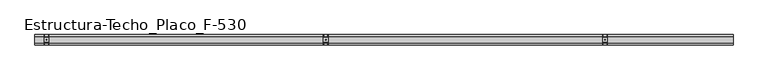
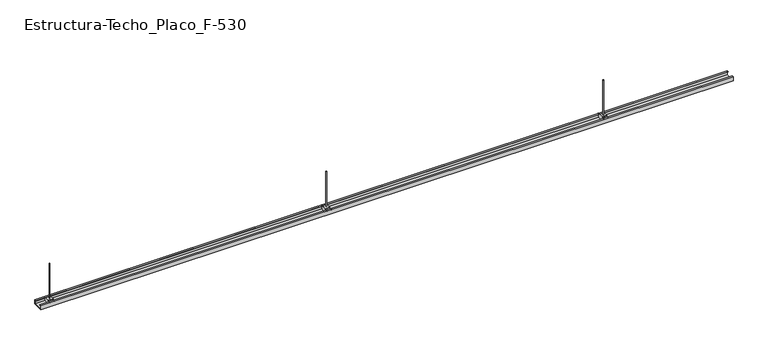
"""IFC4 building model written with IfcOpenShell, lengths in millimetres: proxy geometry, Estructura-Techo_Placo_F-530 : Perfil Primario."""

import ifcopenshell
import ifcopenshell.guid

model = None  # the IFC model being written
_history = None  # IfcOwnerHistory: only IFC2X3 demands one
_inside = {}  # id of a spatial element -> (the spatial element, [elements in it])
_under = {}  # id of a project, library or spatial element -> (it, [spatial elements below it])
_declared = {}  # id of a project -> (the project, [libraries it declares])
_typed = {}  # id of a type object -> (the type object, [elements of that type])
_made_of = {}  # id of a material, layer set ... -> (it, [elements and type objects made of it])


def new_model(schema):
    """Start an empty IFC model of exactly this schema.

    Asked for "IFC4X3", IfcOpenShell would pick the latest addendum, in which some entities
    have other attributes; the version numbers below select the first issue.
    IFC2X3 requires an IfcOwnerHistory on every rooted entity: one is made here for all.
    """
    global model, _history
    if schema == "IFC4X3":
        model = ifcopenshell.file(schema_version=(4, 3, 0, 0))
    else:
        model = ifcopenshell.file(schema=schema)
    _inside.clear()
    _under.clear()
    _declared.clear()
    _typed.clear()
    _made_of.clear()
    _history = None
    if model.schema == "IFC2X3":
        org = make("IfcOrganization", Name="unknown")
        user = make(
            "IfcPersonAndOrganization",
            ThePerson=make("IfcPerson", FamilyName="unknown"),
            TheOrganization=org,
        )
        app = make(
            "IfcApplication",
            ApplicationDeveloper=org,
            Version="unknown",
            ApplicationFullName="unknown",
            ApplicationIdentifier="unknown",
        )
        _history = make(
            "IfcOwnerHistory",
            OwningUser=user,
            OwningApplication=app,
            ChangeAction="ADDED",
            CreationDate=0,
        )
    return model


def make(cls, **values):
    """One entity of the class cls with the attributes given. An attribute that is None is left unset."""
    return model.create_entity(
        cls, **{name: value for name, value in values.items() if value is not None}
    )


def rooted(cls, **values):
    """An entity with a GlobalId (a new one), such as an element, a storey or a relation."""
    return make(cls, GlobalId=ifcopenshell.guid.new(), OwnerHistory=_history, **values)


def si_unit(unit_type, name, prefix=None):
    """IfcSIUnit, for example si_unit("LENGTHUNIT", "METRE", prefix="MILLI")."""
    return make("IfcSIUnit", UnitType=unit_type, Prefix=prefix, Name=name)


def assignment(units):
    """IfcUnitAssignment: the units of a project."""
    return None if units is None else make("IfcUnitAssignment", Units=units)


def point(xyz):
    """IfcCartesianPoint."""
    return None if xyz is None else make("IfcCartesianPoint", Coordinates=xyz)


def direction(xyz):
    """IfcDirection."""
    return None if xyz is None else make("IfcDirection", DirectionRatios=xyz)


def frame(location, z_axis=None, x_axis=None):
    """IfcAxis2Placement3D, a coordinate frame: its origin and axes. An axis left out is left unset."""
    return make(
        "IfcAxis2Placement3D",
        Location=point(location),
        Axis=direction(z_axis),
        RefDirection=direction(x_axis),
    )


def frame_2d(location, x_axis=None):
    """IfcAxis2Placement2D, a coordinate frame in the plane: its origin and x axis."""
    return make(
        "IfcAxis2Placement2D", Location=point(location), RefDirection=direction(x_axis)
    )


def origin():
    """The frame at (0, 0, 0) with its axes left unset."""
    return frame((0.0, 0.0, 0.0))


def place(relative_to, where):
    """IfcLocalPlacement: puts the frame where relative to a parent placement (None: the world)."""
    return make(
        "IfcLocalPlacement", PlacementRelTo=relative_to, RelativePlacement=where
    )


def context(
    kind, dimensions, precision=None, world=None, true_north=None, identifier=None
):
    """IfcGeometricRepresentationContext, for example the 3D "Model" context."""
    return make(
        "IfcGeometricRepresentationContext",
        ContextIdentifier=identifier,
        ContextType=kind,
        CoordinateSpaceDimension=dimensions,
        Precision=precision,
        WorldCoordinateSystem=world,
        TrueNorth=true_north,
    )


def project(units=None, contexts=None):
    """IfcProject with its units and contexts."""
    return rooted(
        "IfcProject",
        Name="project",
        RepresentationContexts=contexts,
        UnitsInContext=assignment(units),
    )


def spatial(cls, under=None, at=None, **own):
    """A site, building, storey or space (cls), placed at a placement, below another one or the project."""
    s = rooted(cls, ObjectPlacement=at, **own)
    if under is not None:
        _under.setdefault(under.id(), (under, []))[1].append(s)
    return s


def polyline(points):
    """IfcPolyline through the points."""
    return make("IfcPolyline", Points=[point(p) for p in points])


def circle_curve(where, radius):
    """IfcCircle in the frame where."""
    return make("IfcCircle", Position=where, Radius=radius)


def trimmed(basis, trim1, trim2, sense, master):
    """IfcTrimmedCurve: the piece of a basis curve between two trims."""
    return make(
        "IfcTrimmedCurve",
        BasisCurve=basis,
        Trim1=trim1,
        Trim2=trim2,
        SenseAgreement=sense,
        MasterRepresentation=master,
    )


def segment(curve, same_sense, transition):
    """IfcCompositeCurveSegment."""
    return make(
        "IfcCompositeCurveSegment",
        Transition=transition,
        SameSense=same_sense,
        ParentCurve=curve,
    )


def composite_curve(segments, self_intersect=None):
    """IfcCompositeCurve: segments joined end to end."""
    return make("IfcCompositeCurve", Segments=segments, SelfIntersect=self_intersect)


def outline(outer, holes=None, kind="AREA"):
    """IfcArbitraryClosedProfileDef: a profile drawn as a closed curve; with holes, ...WithVoids."""
    if holes is None:
        return make("IfcArbitraryClosedProfileDef", ProfileType=kind, OuterCurve=outer)
    return make(
        "IfcArbitraryProfileDefWithVoids",
        ProfileType=kind,
        OuterCurve=outer,
        InnerCurves=holes,
    )


def extrude(swept, where, along, depth):
    """IfcExtrudedAreaSolid: the profile swept, set in the frame where, extruded along a direction by depth."""
    return make(
        "IfcExtrudedAreaSolid",
        SweptArea=swept,
        Position=where,
        ExtrudedDirection=direction(along),
        Depth=depth,
    )


def faces_of(points, faces, orient=None, outer=None):
    """IfcFace entities. A face is a list of loops; a loop is a list of indices into points, from 0.

    orient and outer hold one flag for each loop. By default every Orientation is true, the
    first loop of a face is its IfcFaceOuterBound and the others are IfcFaceBound.
    """
    made = []
    for i, loops in enumerate(faces):
        bounds = []
        for j, loop in enumerate(loops):
            is_outer = j == 0 if outer is None else outer[i][j]
            bounds.append(
                make(
                    "IfcFaceOuterBound" if is_outer else "IfcFaceBound",
                    Bound=make("IfcPolyLoop", Polygon=[points[k] for k in loop]),
                    Orientation=True if orient is None else orient[i][j],
                )
            )
        made.append(make("IfcFace", Bounds=bounds))
    return made


def faceted_brep(points, faces, orient=None, outer=None, voids=None):
    """IfcFacetedBrep: a solid bounded by flat faces; with voids (closed shells), ...WithVoids."""
    shared = [point(p) for p in points]
    hull = make("IfcClosedShell", CfsFaces=faces_of(shared, faces, orient, outer))
    if voids is None:
        return make("IfcFacetedBrep", Outer=hull)
    return make(
        "IfcFacetedBrepWithVoids",
        Outer=hull,
        Voids=[
            make(cls, CfsFaces=faces_of(shared, fs, o, b)) for cls, fs, o, b in voids
        ],
    )


def shape(context_of_items, identifier, shape_type, items):
    """IfcShapeRepresentation: the items that make up one representation, for example the "Body"."""
    return make(
        "IfcShapeRepresentation",
        ContextOfItems=context_of_items,
        RepresentationIdentifier=identifier,
        RepresentationType=shape_type,
        Items=items,
    )


def source(mapping_origin, context_of_items, identifier, shape_type, items):
    """IfcRepresentationMap: a shape defined once, which mapped items show again and again."""
    return make(
        "IfcRepresentationMap",
        MappingOrigin=mapping_origin,
        MappedRepresentation=shape(context_of_items, identifier, shape_type, items),
    )


def transform(
    local_origin,
    x_axis=None,
    y_axis=None,
    z_axis=None,
    scale=None,
    scale2=None,
    scale3=None,
    uniform=True,
):
    """IfcCartesianTransformationOperator3D, or its non-uniform kind. x_axis, y_axis, z_axis: its Axis1, 2, 3."""
    if uniform:
        return make(
            "IfcCartesianTransformationOperator3D",
            Axis1=direction(x_axis),
            Axis2=direction(y_axis),
            LocalOrigin=point(local_origin),
            Scale=scale,
            Axis3=direction(z_axis),
        )
    return make(
        "IfcCartesianTransformationOperator3DnonUniform",
        Axis1=direction(x_axis),
        Axis2=direction(y_axis),
        LocalOrigin=point(local_origin),
        Scale=scale,
        Axis3=direction(z_axis),
        Scale2=scale2,
        Scale3=scale3,
    )


def mapped(mapping_source, mapping_target):
    """IfcMappedItem: shows the shape of a source again, moved by a transform."""
    return make(
        "IfcMappedItem", MappingSource=mapping_source, MappingTarget=mapping_target
    )


def made_of(thing, what):
    """Note that an element or type object is made of a material, layer set ...; save() writes the relation."""
    if what is not None:
        _made_of.setdefault(what.id(), (what, []))[1].append(thing)
    return thing


def element(
    cls,
    number,
    at=None,
    inside=None,
    cuts=None,
    type_object=None,
    material=None,
    context=None,
    identifier="Body",
    shape_type=None,
    held_by="IfcProductDefinitionShape",
    body=None,
    shapes=None,
    **own,
):
    """One element of the class cls, such as IfcWall. Its Tag is "e" and its number.

    at: its placement. inside: the storey or other place that contains it. cuts: it is an
    opening in that element (IfcRelVoidsElement). A single representation is given by context,
    identifier, shape_type and body (its items); several are given by shapes. held_by: the class
    of the entity that holds the representations. save() writes the other relations.
    """
    e = rooted(cls, Tag="e%d" % number, ObjectPlacement=at, **own)
    if body is not None:
        shapes = [shape(context, identifier, shape_type, body)]
    if shapes is not None:
        e.Representation = make(held_by, Representations=shapes)
    if inside is not None:
        _inside.setdefault(inside.id(), (inside, []))[1].append(e)
    if cuts is not None:
        rooted(
            "IfcRelVoidsElement", RelatingBuildingElement=cuts, RelatedOpeningElement=e
        )
    if type_object is not None:
        _typed.setdefault(type_object.id(), (type_object, []))[1].append(e)
    return made_of(e, material)


def aggregate(whole, parts):
    """IfcRelAggregates: a whole, such as a stair, and the parts it consists of."""
    return rooted("IfcRelAggregates", RelatingObject=whole, RelatedObjects=parts)


def save(model, path):
    """Write the relations noted so far, then the file.

    IfcRelAggregates (storeys below a building ...), IfcRelContainedInSpatialStructure (elements
    in a storey), IfcRelDefinesByType, IfcRelAssociatesMaterial and IfcRelDeclares: one each for
    every whole, place, type object, material and project.
    """
    for whole, parts in _under.values():
        aggregate(whole, parts)
    for where, things in _inside.values():
        rooted(
            "IfcRelContainedInSpatialStructure",
            RelatedElements=things,
            RelatingStructure=where,
        )
    for kind, things in _typed.values():
        rooted("IfcRelDefinesByType", RelatedObjects=things, RelatingType=kind)
    for what, things in _made_of.values():
        rooted("IfcRelAssociatesMaterial", RelatedObjects=things, RelatingMaterial=what)
    for by, libraries in _declared.values():
        rooted("IfcRelDeclares", RelatingContext=by, RelatedDefinitions=libraries)
    model.write(path)


def estructura_techo_placo_f_530_020da930(model_context):
    return source(origin(), model_context, "Body", "SolidModel", [
        extrude(outline(composite_curve([segment(trimmed(circle_curve(frame_2d((2450.0, 0.0)), 1.5), [point((2448.5, 0.0))], [point((2451.5, 0.0))], False, "CARTESIAN"), True, "CONTINUOUS"), segment(trimmed(circle_curve(frame_2d((2450.0, 0.0)), 1.5), [point((2451.5, 0.0))], [point((2448.5, 0.0))], False, "CARTESIAN"), True, "CONTINUOUS")], self_intersect=False)), frame((0.0, 0.0, 40.0), z_axis=(0.0, 0.0, 1.0), x_axis=(1.0, 0.0, 0.0)), (0.0, 0.0, 1.0), 160.0),
        faceted_brep([(2460.0, 10.0, 37.0), (2460.0, 10.0, 40.0), (2460.0, -10.0, 40.0), (2460.0, -10.0, 37.0), (2460.0, -22.5, 37.0), (2460.0, -22.5, 36.0), (2460.0, -14.9944465, 23.0), (2460.0, 14.9944465, 23.0), (2460.0, 22.5, 36.0), (2460.0, 22.5, 37.0), (2440.0, 10.0, 37.0), (2440.0, 22.5, 37.0), (2440.0, 22.5, 36.0), (2440.0, 14.9944465, 23.0), (2440.0, -14.9944465, 23.0), (2440.0, -22.5, 36.0), (2440.0, -22.5, 37.0), (2440.0, -10.0, 37.0), (2440.0, -10.0, 40.0), (2440.0, 10.0, 40.0), (2459.0, 10.0, 37.0), (2459.0, 10.0, 39.0), (2441.0, 10.0, 39.0), (2441.0, 10.0, 37.0), (2441.0, -10.0, 37.0), (2441.0, -10.0, 39.0), (2459.0, -10.0, 39.0), (2459.0, -10.0, 37.0), (2459.0, -22.5, 37.0), (2441.0, -22.5, 37.0), (2459.0, -22.5, 36.0), (2441.0, -22.5, 36.0), (2459.0, -14.9944465, 23.0), (2441.0, -14.9944465, 23.0), (2459.0, 14.9944465, 23.0), (2441.0, 14.9944465, 23.0), (2459.0, 22.5, 36.0), (2441.0, 22.5, 36.0), (2459.0, 22.5, 37.0), (2441.0, 22.5, 37.0)], [[[0, 1, 2, 3, 4, 5, 6, 7, 8, 9]], [[10, 11, 12, 13, 14, 15, 16, 17, 18, 19]], [[1, 0, 20, 21, 22, 23, 10, 19]], [[2, 1, 19, 18]], [[3, 2, 18, 17, 24, 25, 26, 27]], [[4, 3, 27, 28]], [[17, 16, 29, 24]], [[5, 4, 28, 30]], [[16, 15, 31, 29]], [[6, 5, 30, 32]], [[15, 14, 33, 31]], [[7, 6, 32, 34]], [[14, 13, 35, 33]], [[8, 7, 34, 36]], [[13, 12, 37, 35]], [[9, 8, 36, 38]], [[12, 11, 39, 37]], [[0, 9, 38, 20]], [[11, 10, 23, 39]], [[21, 26, 25, 22]], [[22, 25, 24, 29, 31, 33, 35, 37, 39, 23]], [[26, 21, 20, 38, 36, 34, 32, 30, 28, 27]]]),
        extrude(outline(composite_curve([segment(trimmed(circle_curve(frame_2d((1250.0, 0.0)), 1.5), [point((1248.5, 0.0))], [point((1251.5, 0.0))], False, "CARTESIAN"), True, "CONTINUOUS"), segment(trimmed(circle_curve(frame_2d((1250.0, 0.0)), 1.5), [point((1251.5, 0.0))], [point((1248.5, 0.0))], False, "CARTESIAN"), True, "CONTINUOUS")], self_intersect=False)), frame((0.0, 0.0, 40.0), z_axis=(0.0, 0.0, 1.0), x_axis=(1.0, 0.0, 0.0)), (0.0, 0.0, 1.0), 160.0),
        faceted_brep([(1260.0, 10.0, 37.0), (1260.0, 10.0, 40.0), (1260.0, -10.0, 40.0), (1260.0, -10.0, 37.0), (1260.0, -22.5, 37.0), (1260.0, -22.5, 36.0), (1260.0, -14.9944465, 23.0), (1260.0, 14.9944465, 23.0), (1260.0, 22.5, 36.0), (1260.0, 22.5, 37.0), (1240.0, 10.0, 37.0), (1240.0, 22.5, 37.0), (1240.0, 22.5, 36.0), (1240.0, 14.9944465, 23.0), (1240.0, -14.9944465, 23.0), (1240.0, -22.5, 36.0), (1240.0, -22.5, 37.0), (1240.0, -10.0, 37.0), (1240.0, -10.0, 40.0), (1240.0, 10.0, 40.0), (1259.0, 10.0, 37.0), (1259.0, 10.0, 39.0), (1241.0, 10.0, 39.0), (1241.0, 10.0, 37.0), (1241.0, -10.0, 37.0), (1241.0, -10.0, 39.0), (1259.0, -10.0, 39.0), (1259.0, -10.0, 37.0), (1259.0, -22.5, 37.0), (1241.0, -22.5, 37.0), (1259.0, -22.5, 36.0), (1241.0, -22.5, 36.0), (1259.0, -14.9944465, 23.0), (1241.0, -14.9944465, 23.0), (1259.0, 14.9944465, 23.0), (1241.0, 14.9944465, 23.0), (1259.0, 22.5, 36.0), (1241.0, 22.5, 36.0), (1259.0, 22.5, 37.0), (1241.0, 22.5, 37.0)], [[[0, 1, 2, 3, 4, 5, 6, 7, 8, 9]], [[10, 11, 12, 13, 14, 15, 16, 17, 18, 19]], [[1, 0, 20, 21, 22, 23, 10, 19]], [[2, 1, 19, 18]], [[3, 2, 18, 17, 24, 25, 26, 27]], [[4, 3, 27, 28]], [[17, 16, 29, 24]], [[5, 4, 28, 30]], [[16, 15, 31, 29]], [[6, 5, 30, 32]], [[15, 14, 33, 31]], [[7, 6, 32, 34]], [[14, 13, 35, 33]], [[8, 7, 34, 36]], [[13, 12, 37, 35]], [[9, 8, 36, 38]], [[12, 11, 39, 37]], [[0, 9, 38, 20]], [[11, 10, 23, 39]], [[21, 26, 25, 22]], [[22, 25, 24, 29, 31, 33, 35, 37, 39, 23]], [[26, 21, 20, 38, 36, 34, 32, 30, 28, 27]]]),
        extrude(outline(composite_curve([segment(trimmed(circle_curve(frame_2d((50.0, 0.0)), 1.5), [point((48.5, 0.0))], [point((51.5, 0.0))], False, "CARTESIAN"), True, "CONTINUOUS"), segment(trimmed(circle_curve(frame_2d((50.0, 0.0)), 1.5), [point((51.5, 0.0))], [point((48.5, 0.0))], False, "CARTESIAN"), True, "CONTINUOUS")], self_intersect=False)), frame((0.0, 0.0, 40.0), z_axis=(0.0, 0.0, 1.0), x_axis=(1.0, 0.0, 0.0)), (0.0, 0.0, 1.0), 160.0),
        faceted_brep([(60.0, 10.0, 37.0), (60.0, 10.0, 40.0), (60.0, -10.0, 40.0), (60.0, -10.0, 37.0), (60.0, -22.5, 37.0), (60.0, -22.5, 36.0), (60.0, -14.9944465, 23.0), (60.0, 14.9944465, 23.0), (60.0, 22.5, 36.0), (60.0, 22.5, 37.0), (40.0, 10.0, 37.0), (40.0, 22.5, 37.0), (40.0, 22.5, 36.0), (40.0, 14.9944465, 23.0), (40.0, -14.9944465, 23.0), (40.0, -22.5, 36.0), (40.0, -22.5, 37.0), (40.0, -10.0, 37.0), (40.0, -10.0, 40.0), (40.0, 10.0, 40.0), (59.0, 10.0, 37.0), (59.0, 10.0, 39.0), (41.0, 10.0, 39.0), (41.0, 10.0, 37.0), (41.0, -10.0, 37.0), (41.0, -10.0, 39.0), (59.0, -10.0, 39.0), (59.0, -10.0, 37.0), (59.0, -22.5, 37.0), (41.0, -22.5, 37.0), (59.0, -22.5, 36.0), (41.0, -22.5, 36.0), (59.0, -14.9944465, 23.0), (41.0, -14.9944465, 23.0), (59.0, 14.9944465, 23.0), (41.0, 14.9944465, 23.0), (59.0, 22.5, 36.0), (41.0, 22.5, 36.0), (59.0, 22.5, 37.0), (41.0, 22.5, 37.0)], [[[0, 1, 2, 3, 4, 5, 6, 7, 8, 9]], [[10, 11, 12, 13, 14, 15, 16, 17, 18, 19]], [[1, 0, 20, 21, 22, 23, 10, 19]], [[2, 1, 19, 18]], [[3, 2, 18, 17, 24, 25, 26, 27]], [[4, 3, 27, 28]], [[17, 16, 29, 24]], [[5, 4, 28, 30]], [[16, 15, 31, 29]], [[6, 5, 30, 32]], [[15, 14, 33, 31]], [[7, 6, 32, 34]], [[14, 13, 35, 33]], [[8, 7, 34, 36]], [[13, 12, 37, 35]], [[9, 8, 36, 38]], [[12, 11, 39, 37]], [[0, 9, 38, 20]], [[11, 10, 23, 39]], [[21, 26, 25, 22]], [[22, 25, 24, 29, 31, 33, 35, 37, 39, 23]], [[26, 21, 20, 38, 36, 34, 32, 30, 28, 27]]]),
        extrude(outline(polyline([(15.5, 36.0), (22.5, 36.0), (22.5, 18.0), (-22.5, 18.0), (-22.5, 36.0), (-15.5, 36.0), (-15.5, 35.0), (-21.5, 35.0), (-21.5, 19.0), (21.5, 19.0), (21.5, 35.0), (15.5, 35.0), (15.5, 36.0)])), frame((0.0, 0.0, 0.0), z_axis=(1.0, 0.0, 0.0), x_axis=(0.0, 1.0, 0.0)), (0.0, 0.0, 1.0), 3000.0),
    ])


if __name__ == "__main__":
    model = new_model("IFC4")
    model_context = context("Model", 3, world=origin())
    ifc_project = project(units=[si_unit("LENGTHUNIT", "METRE", prefix="MILLI")], contexts=[model_context])
    site = spatial("IfcSite", under=ifc_project)
    building = spatial("IfcBuilding", under=site)
    placement = place(None, origin())
    estructura_techo_placo_f_530_shape = estructura_techo_placo_f_530_020da930(model_context)
    element("IfcBuildingElementProxy", 1, Name="Estructura-Techo_Placo_F-530 : Perfil Primario", ObjectType="Estructura-Techo_Placo_F-530 : Perfil Primario", at=placement, inside=building, context=model_context, shape_type="MappedRepresentation", body=[
        mapped(estructura_techo_placo_f_530_shape, transform((0.0, 0.0, 0.0), x_axis=(1.0, 0.0, 0.0), y_axis=(0.0, 1.0, 0.0), z_axis=(0.0, 0.0, 1.0))),
    ])
    save(model, "model.ifc")
